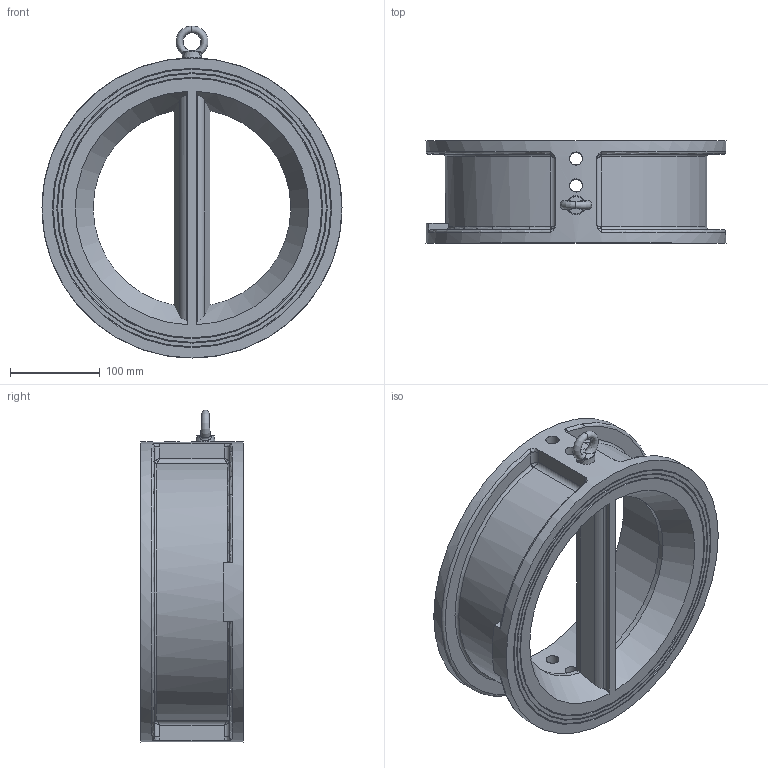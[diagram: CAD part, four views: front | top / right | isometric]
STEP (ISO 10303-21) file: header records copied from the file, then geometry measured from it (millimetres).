
FILE_DESCRIPTION (( 'STEP AP203' ), '1' );
FILE_NAME ('5306 DN250 ×°Åä PN25.STEP', '2026-05-08T01:04:23', ( '' ), ( '' ), 'SwSTEP 2.0', 'SolidWorks 2018', '' );
FILE_SCHEMA (( 'CONFIG_CONTROL_DESIGN' ));
Length unit declared in the file: millimetre
Products named in the file (3): GB╱T 825-1988[吊环螺钉M8]_M8; 5306 DN250 概极; 5306 DN250 蚾饜 PN25
Assembly tree (2 placements, depth 2):
  5306 DN250 蚾饜 PN25
    5306 DN250 概极
    GB╱T 825-1988[吊环螺钉M8]_M8
Bounding box: 334 x 114 x 369.6 mm (x, y, z)
Volume: 2719386.8 mm3; surface area: 368508 mm2
Topology: 2 solids, 2 shells, 140 faces, 342 edges, 197 vertices
Faces by surface type: bspline 41, cylinder 33, plane 29, cone 24, torus 13
Full cylindrical faces by diameter (mm): 6.8 x1, 8 x1, 13 x1, 14.4 x4, 14.6 x4, 265 x1, 334 x1
Entity records: 7567 total; most frequent: CARTESIAN_POINT 4664, ORIENTED_EDGE 542, DIRECTION 466, EDGE_CURVE 271, AXIS2_PLACEMENT_3D 207, EDGE_LOOP 197, VERTEX_POINT 180, FACE_OUTER_BOUND 155
